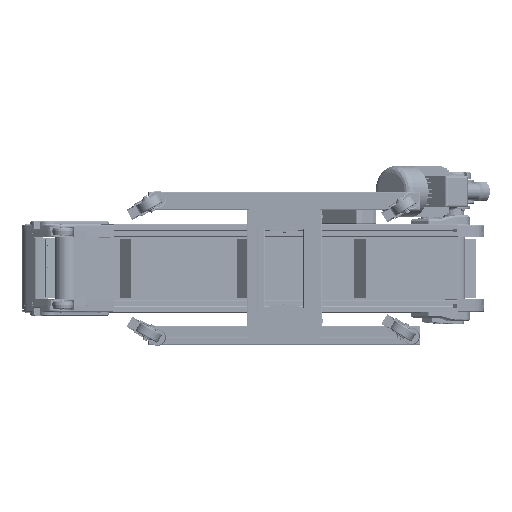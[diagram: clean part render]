
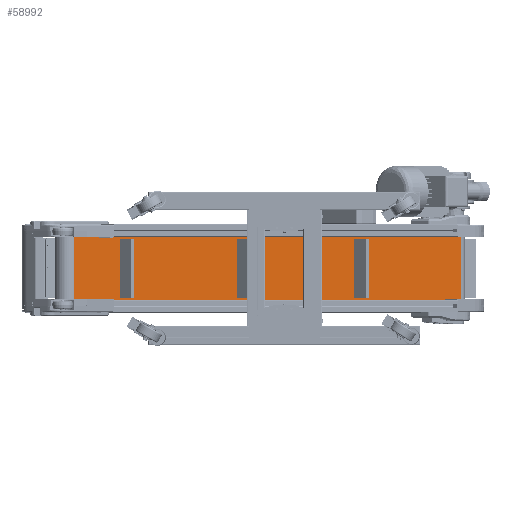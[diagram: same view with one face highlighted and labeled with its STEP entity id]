
A CAD part, front view. The second image highlights one B-rep face of the part: STEP entity #58992.
In plain terms, the highlighted planar face has unit normal (0.707, -0.707, 0).
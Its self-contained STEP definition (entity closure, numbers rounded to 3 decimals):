
#1234 = VECTOR ( 'NONE', #73771, 1000. ) ;
#3105 = CARTESIAN_POINT ( 'NONE',  ( 1479.544, 921.36, -96.5 ) ) ;
#16429 = VERTEX_POINT ( 'NONE', #294167 ) ;
#23669 = CARTESIAN_POINT ( 'NONE',  ( 1479.544, 921.36, -96.5 ) ) ;
#38783 = VERTEX_POINT ( 'NONE', #23669 ) ;
#39819 = FACE_OUTER_BOUND ( 'NONE', #248097, .T. ) ;
#42844 = CARTESIAN_POINT ( 'NONE',  ( 1479.544, 921.36, 96.5 ) ) ;
#52225 = LINE ( 'NONE', #3105, #1234 ) ;
#58992 = ADVANCED_FACE ( 'NONE', ( #39819 ), #111901, .F. ) ;
#73160 = ORIENTED_EDGE ( 'NONE', *, *, #289244, .F. ) ;
#73771 = DIRECTION ( 'NONE',  ( 0.707, 0.707, 0. ) ) ;
#93006 = CARTESIAN_POINT ( 'NONE',  ( 546.163, -12.021, 96.5 ) ) ;
#97757 = VERTEX_POINT ( 'NONE', #112503 ) ;
#111901 = PLANE ( 'NONE',  #224258 ) ;
#112503 = CARTESIAN_POINT ( 'NONE',  ( 546.163, -12.021, 96.5 ) ) ;
#115945 = LINE ( 'NONE', #93006, #248261 ) ;
#132945 = VECTOR ( 'NONE', #182489, 1000. ) ;
#133407 = DIRECTION ( 'NONE',  ( -0.707, 0.707, 0. ) ) ;
#138509 = DIRECTION ( 'NONE',  ( 0., 0., -1. ) ) ;
#177942 = DIRECTION ( 'NONE',  ( -0.707, -0.707, 0. ) ) ;
#179049 = ORIENTED_EDGE ( 'NONE', *, *, #200870, .T. ) ;
#182489 = DIRECTION ( 'NONE',  ( 0.707, 0.707, 0. ) ) ;
#185055 = DIRECTION ( 'NONE',  ( 0., 0., -1. ) ) ;
#185523 = LINE ( 'NONE', #42844, #132945 ) ;
#200870 = EDGE_CURVE ( 'NONE', #97757, #259142, #115945, .T. ) ;
#224258 = AXIS2_PLACEMENT_3D ( 'NONE', #296245, #133407, #177942 ) ;
#227827 = ORIENTED_EDGE ( 'NONE', *, *, #296042, .T. ) ;
#248097 = EDGE_LOOP ( 'NONE', ( #227827, #73160, #299930, #179049 ) ) ;
#248261 = VECTOR ( 'NONE', #185055, 1000. ) ;
#255117 = CARTESIAN_POINT ( 'NONE',  ( 546.163, -12.021, -96.5 ) ) ;
#255162 = LINE ( 'NONE', #279756, #268660 ) ;
#259142 = VERTEX_POINT ( 'NONE', #255117 ) ;
#268660 = VECTOR ( 'NONE', #138509, 1000. ) ;
#279756 = CARTESIAN_POINT ( 'NONE',  ( 1479.544, 921.36, 96.5 ) ) ;
#289244 = EDGE_CURVE ( 'NONE', #16429, #38783, #255162, .T. ) ;
#294005 = EDGE_CURVE ( 'NONE', #97757, #16429, #185523, .T. ) ;
#294167 = CARTESIAN_POINT ( 'NONE',  ( 1479.544, 921.36, 96.5 ) ) ;
#296042 = EDGE_CURVE ( 'NONE', #259142, #38783, #52225, .T. ) ;
#296245 = CARTESIAN_POINT ( 'NONE',  ( 1479.544, 921.36, 96.5 ) ) ;
#299930 = ORIENTED_EDGE ( 'NONE', *, *, #294005, .F. ) ;
